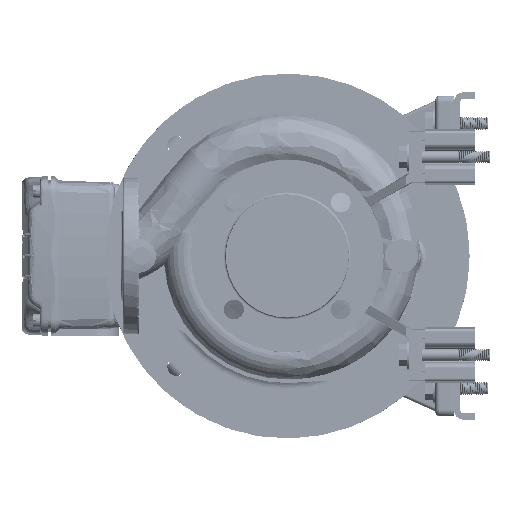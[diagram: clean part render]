
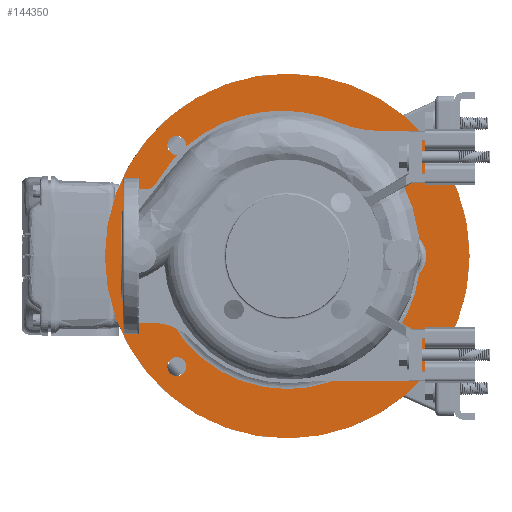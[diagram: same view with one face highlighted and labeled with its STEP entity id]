
A CAD part, left-side view. The second image highlights one B-rep face of the part: STEP entity #144350.
In plain terms, the highlighted planar face has unit normal (-1, 0, 0).
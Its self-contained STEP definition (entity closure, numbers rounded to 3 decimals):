
#3743 = CARTESIAN_POINT ( 'NONE',  ( 229.752, 168.339, 314.278 ) ) ;
#3928 = EDGE_CURVE ( 'NONE', #26272, #184401, #6689, .T. ) ;
#4712 = ORIENTED_EDGE ( 'NONE', *, *, #165252, .T. ) ;
#6689 = CIRCLE ( 'NONE', #27583, 175. ) ;
#7701 = CARTESIAN_POINT ( 'NONE',  ( 229.752, 274.374, 420.367 ) ) ;
#8075 = CARTESIAN_POINT ( 'NONE',  ( 229.752, 274.374, 420.367 ) ) ;
#8321 = CARTESIAN_POINT ( 'NONE',  ( 229.752, 62.303, 199.188 ) ) ;
#9075 = CARTESIAN_POINT ( 'NONE',  ( 229.752, 168.339, 441.957 ) ) ;
#10813 = AXIS2_PLACEMENT_3D ( 'NONE', #196817, #31063, #97573 ) ;
#13081 = CARTESIAN_POINT ( 'NONE',  ( 229.752, 168.339, 314.278 ) ) ;
#15942 = FACE_BOUND ( 'NONE', #153735, .T. ) ;
#17084 = CIRCLE ( 'NONE', #44974, 9. ) ;
#23000 = DIRECTION ( 'NONE',  ( 1., 0., 0. ) ) ;
#26272 = VERTEX_POINT ( 'NONE', #133767 ) ;
#27583 = AXIS2_PLACEMENT_3D ( 'NONE', #121130, #134292, #38233 ) ;
#28586 = CARTESIAN_POINT ( 'NONE',  ( 229.752, 274.374, 429.367 ) ) ;
#31063 = DIRECTION ( 'NONE',  ( 1., 0., 0. ) ) ;
#31436 = EDGE_CURVE ( 'NONE', #214334, #90566, #94789, .T. ) ;
#33307 = EDGE_CURVE ( 'NONE', #99113, #63974, #103583, .T. ) ;
#38233 = DIRECTION ( 'NONE',  ( 0., 0., -1. ) ) ;
#38755 = AXIS2_PLACEMENT_3D ( 'NONE', #213726, #179848, #146108 ) ;
#39369 = CARTESIAN_POINT ( 'NONE',  ( 229.752, 168.339, 314.278 ) ) ;
#41668 = CARTESIAN_POINT ( 'NONE',  ( 229.752, 62.303, 420.367 ) ) ;
#43819 = DIRECTION ( 'NONE',  ( -1., 0., 0. ) ) ;
#44974 = AXIS2_PLACEMENT_3D ( 'NONE', #50298, #86288, #66667 ) ;
#46538 = EDGE_CURVE ( 'NONE', #63974, #99113, #180084, .T. ) ;
#47596 = PLANE ( 'NONE',  #69257 ) ;
#48685 = FACE_BOUND ( 'NONE', #124677, .T. ) ;
#49426 = CARTESIAN_POINT ( 'NONE',  ( 229.752, 41.748, 297.636 ) ) ;
#50298 = CARTESIAN_POINT ( 'NONE',  ( 229.752, 62.303, 420.367 ) ) ;
#52285 = DIRECTION ( 'NONE',  ( 0., 0., 1. ) ) ;
#54136 = EDGE_CURVE ( 'NONE', #116341, #190119, #79713, .T. ) ;
#56309 = ORIENTED_EDGE ( 'NONE', *, *, #177747, .T. ) ;
#59003 = VERTEX_POINT ( 'NONE', #154018 ) ;
#60799 = CIRCLE ( 'NONE', #172243, 9. ) ;
#63231 = AXIS2_PLACEMENT_3D ( 'NONE', #13081, #79682, #212747 ) ;
#63974 = VERTEX_POINT ( 'NONE', #28586 ) ;
#66667 = DIRECTION ( 'NONE',  ( 0., 0., -1. ) ) ;
#66792 = CIRCLE ( 'NONE', #63231, 127.679 ) ;
#69102 = EDGE_CURVE ( 'NONE', #90566, #191103, #104744, .T. ) ;
#69257 = AXIS2_PLACEMENT_3D ( 'NONE', #114164, #147944, #215593 ) ;
#70466 = CARTESIAN_POINT ( 'NONE',  ( 229.752, 41.748, 330.919 ) ) ;
#71222 = CIRCLE ( 'NONE', #196716, 9. ) ;
#72496 = DIRECTION ( 'NONE',  ( 0., 0., -1. ) ) ;
#72646 = CARTESIAN_POINT ( 'NONE',  ( 229.752, 62.303, 217.188 ) ) ;
#74176 = VERTEX_POINT ( 'NONE', #8321 ) ;
#74271 = DIRECTION ( 'NONE',  ( 1., 0., 0. ) ) ;
#74474 = CARTESIAN_POINT ( 'NONE',  ( 229.752, 168.339, 314.278 ) ) ;
#79682 = DIRECTION ( 'NONE',  ( 1., 0., 0. ) ) ;
#79713 = CIRCLE ( 'NONE', #201562, 9. ) ;
#83996 = CARTESIAN_POINT ( 'NONE',  ( 229.752, 62.303, 208.188 ) ) ;
#86288 = DIRECTION ( 'NONE',  ( -1., 0., 0. ) ) ;
#89348 = EDGE_CURVE ( 'NONE', #175689, #214334, #129331, .T. ) ;
#90035 = CARTESIAN_POINT ( 'NONE',  ( 229.752, 168.339, 139.278 ) ) ;
#90566 = VERTEX_POINT ( 'NONE', #190225 ) ;
#90960 = CIRCLE ( 'NONE', #38755, 9. ) ;
#94352 = AXIS2_PLACEMENT_3D ( 'NONE', #3743, #190198, #141149 ) ;
#94789 = CIRCLE ( 'NONE', #199231, 127.679 ) ;
#97375 = CARTESIAN_POINT ( 'NONE',  ( 229.752, 274.374, 411.367 ) ) ;
#97573 = DIRECTION ( 'NONE',  ( 0., 0., 1. ) ) ;
#98838 = FACE_BOUND ( 'NONE', #159496, .T. ) ;
#99113 = VERTEX_POINT ( 'NONE', #97375 ) ;
#103583 = CIRCLE ( 'NONE', #173324, 9. ) ;
#104744 = CIRCLE ( 'NONE', #94352, 127.679 ) ;
#111638 = VERTEX_POINT ( 'NONE', #205976 ) ;
#114164 = CARTESIAN_POINT ( 'NONE',  ( 229.752, 343.339, 314.278 ) ) ;
#115218 = FACE_BOUND ( 'NONE', #178963, .T. ) ;
#116341 = VERTEX_POINT ( 'NONE', #140314 ) ;
#116686 = DIRECTION ( 'NONE',  ( 1., 0., 0. ) ) ;
#117878 = ORIENTED_EDGE ( 'NONE', *, *, #69102, .T. ) ;
#119208 = ORIENTED_EDGE ( 'NONE', *, *, #89348, .T. ) ;
#121130 = CARTESIAN_POINT ( 'NONE',  ( 229.752, 168.339, 314.278 ) ) ;
#121198 = DIRECTION ( 'NONE',  ( 0., 0., -1. ) ) ;
#121232 = ORIENTED_EDGE ( 'NONE', *, *, #173331, .F. ) ;
#124419 = ORIENTED_EDGE ( 'NONE', *, *, #46538, .T. ) ;
#124677 = EDGE_LOOP ( 'NONE', ( #190570, #124419 ) ) ;
#127873 = DIRECTION ( 'NONE',  ( 0., 0., -1. ) ) ;
#129331 = CIRCLE ( 'NONE', #10813, 23.5 ) ;
#130514 = FACE_BOUND ( 'NONE', #135319, .T. ) ;
#133767 = CARTESIAN_POINT ( 'NONE',  ( 229.752, 168.339, 489.278 ) ) ;
#134292 = DIRECTION ( 'NONE',  ( 1., 0., 0. ) ) ;
#134497 = CIRCLE ( 'NONE', #148348, 175. ) ;
#135319 = EDGE_LOOP ( 'NONE', ( #56309, #173852 ) ) ;
#136287 = DIRECTION ( 'NONE',  ( 0., 0., 1. ) ) ;
#138092 = ORIENTED_EDGE ( 'NONE', *, *, #3928, .F. ) ;
#139207 = ORIENTED_EDGE ( 'NONE', *, *, #54136, .F. ) ;
#140314 = CARTESIAN_POINT ( 'NONE',  ( 229.752, 62.303, 429.367 ) ) ;
#140701 = EDGE_CURVE ( 'NONE', #59003, #111638, #208940, .T. ) ;
#141006 = DIRECTION ( 'NONE',  ( 1., 0., 0. ) ) ;
#141149 = DIRECTION ( 'NONE',  ( 0., 0., -1. ) ) ;
#142388 = ORIENTED_EDGE ( 'NONE', *, *, #177770, .F. ) ;
#144350 = ADVANCED_FACE ( 'NONE', ( #48685, #15942, #164272, #115218, #130514, #98838 ), #47596, .T. ) ;
#145085 = EDGE_CURVE ( 'NONE', #190119, #116341, #17084, .T. ) ;
#146108 = DIRECTION ( 'NONE',  ( 0., 0., 1. ) ) ;
#147944 = DIRECTION ( 'NONE',  ( -1., 0., 0. ) ) ;
#148348 = AXIS2_PLACEMENT_3D ( 'NONE', #74474, #141006, #127873 ) ;
#151535 = DIRECTION ( 'NONE',  ( -1., 0., 0. ) ) ;
#153735 = EDGE_LOOP ( 'NONE', ( #200633, #139207 ) ) ;
#154018 = CARTESIAN_POINT ( 'NONE',  ( 229.752, 274.374, 199.188 ) ) ;
#155396 = CARTESIAN_POINT ( 'NONE',  ( 229.752, 62.303, 411.367 ) ) ;
#159496 = EDGE_LOOP ( 'NONE', ( #189753, #117878, #4712, #119208 ) ) ;
#164272 = FACE_OUTER_BOUND ( 'NONE', #191126, .T. ) ;
#164433 = EDGE_CURVE ( 'NONE', #74176, #175791, #90960, .T. ) ;
#165252 = EDGE_CURVE ( 'NONE', #191103, #175689, #66792, .T. ) ;
#168928 = DIRECTION ( 'NONE',  ( 0., 0., 1. ) ) ;
#172243 = AXIS2_PLACEMENT_3D ( 'NONE', #83996, #116686, #52285 ) ;
#173324 = AXIS2_PLACEMENT_3D ( 'NONE', #8075, #173856, #72496 ) ;
#173331 = EDGE_CURVE ( 'NONE', #184401, #26272, #134497, .T. ) ;
#173852 = ORIENTED_EDGE ( 'NONE', *, *, #164433, .T. ) ;
#173856 = DIRECTION ( 'NONE',  ( 1., 0., 0. ) ) ;
#175689 = VERTEX_POINT ( 'NONE', #70466 ) ;
#175791 = VERTEX_POINT ( 'NONE', #72646 ) ;
#177747 = EDGE_CURVE ( 'NONE', #175791, #74176, #60799, .T. ) ;
#177770 = EDGE_CURVE ( 'NONE', #111638, #59003, #71222, .T. ) ;
#178963 = EDGE_LOOP ( 'NONE', ( #142388, #200596 ) ) ;
#179848 = DIRECTION ( 'NONE',  ( 1., 0., 0. ) ) ;
#180084 = CIRCLE ( 'NONE', #204560, 9. ) ;
#184401 = VERTEX_POINT ( 'NONE', #90035 ) ;
#189753 = ORIENTED_EDGE ( 'NONE', *, *, #31436, .T. ) ;
#190119 = VERTEX_POINT ( 'NONE', #155396 ) ;
#190198 = DIRECTION ( 'NONE',  ( 1., 0., 0. ) ) ;
#190225 = CARTESIAN_POINT ( 'NONE',  ( 229.752, 168.339, 186.598 ) ) ;
#190570 = ORIENTED_EDGE ( 'NONE', *, *, #33307, .T. ) ;
#191103 = VERTEX_POINT ( 'NONE', #9075 ) ;
#191126 = EDGE_LOOP ( 'NONE', ( #121232, #138092 ) ) ;
#196716 = AXIS2_PLACEMENT_3D ( 'NONE', #199552, #200645, #136287 ) ;
#196817 = CARTESIAN_POINT ( 'NONE',  ( 229.752, 58.34, 314.278 ) ) ;
#199231 = AXIS2_PLACEMENT_3D ( 'NONE', #39369, #23000, #121198 ) ;
#199552 = CARTESIAN_POINT ( 'NONE',  ( 229.752, 274.374, 208.188 ) ) ;
#200596 = ORIENTED_EDGE ( 'NONE', *, *, #140701, .F. ) ;
#200633 = ORIENTED_EDGE ( 'NONE', *, *, #145085, .F. ) ;
#200645 = DIRECTION ( 'NONE',  ( -1., 0., 0. ) ) ;
#201562 = AXIS2_PLACEMENT_3D ( 'NONE', #41668, #43819, #208586 ) ;
#201713 = CARTESIAN_POINT ( 'NONE',  ( 229.752, 274.374, 208.188 ) ) ;
#204560 = AXIS2_PLACEMENT_3D ( 'NONE', #7701, #74271, #207359 ) ;
#205501 = AXIS2_PLACEMENT_3D ( 'NONE', #201713, #151535, #168928 ) ;
#205976 = CARTESIAN_POINT ( 'NONE',  ( 229.752, 274.374, 217.188 ) ) ;
#207359 = DIRECTION ( 'NONE',  ( 0., 0., -1. ) ) ;
#208586 = DIRECTION ( 'NONE',  ( 0., 0., -1. ) ) ;
#208940 = CIRCLE ( 'NONE', #205501, 9. ) ;
#212747 = DIRECTION ( 'NONE',  ( 0., 0., -1. ) ) ;
#213726 = CARTESIAN_POINT ( 'NONE',  ( 229.752, 62.303, 208.188 ) ) ;
#214334 = VERTEX_POINT ( 'NONE', #49426 ) ;
#215593 = DIRECTION ( 'NONE',  ( 0., 0., 1. ) ) ;
